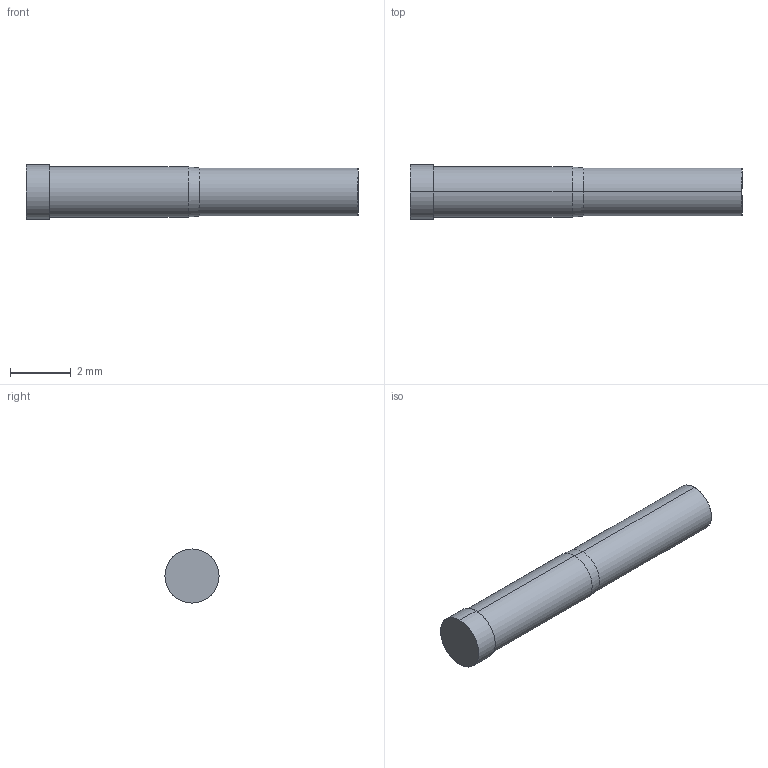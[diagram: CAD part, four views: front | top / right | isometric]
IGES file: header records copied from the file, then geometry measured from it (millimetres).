
Start section: SolidWorks IGES file using analytic representation for surfaces
Global section: file name: O:\PYLON\IGES FILES\E-S\E-S-R FULL.IGS; native system: SolidWorks 2015; preprocessor: SolidWorks 2015; author: kgolden; date: 171024.082700; units: inch
Bounding box: 10.92 x 1.78 x 1.78 mm (x, y, z)
Surface area: 69.8 mm2 (no closed solid volume)
Topology: 0 solids, 0 shells, 14 faces, 168 edges, 168 vertices
Faces by surface type: revolution 10, bspline 4
